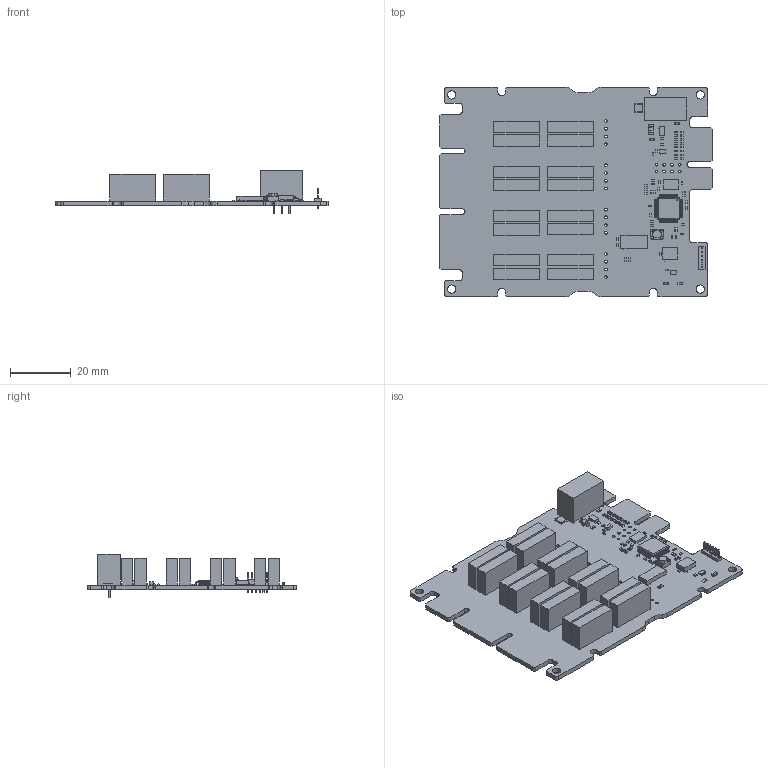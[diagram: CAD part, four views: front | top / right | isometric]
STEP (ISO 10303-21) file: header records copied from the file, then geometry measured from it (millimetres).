
FILE_DESCRIPTION(('Open CASCADE Model'),'2;1');
FILE_NAME('Open CASCADE Shape Model','2026-08-19T14:33:07',('Author'),( 'Open CASCADE'),'Open CASCADE STEP processor 7.5','Open CASCADE 7.5' ,'Unknown');
FILE_SCHEMA(('AUTOMOTIVE_DESIGN { 1 0 10303 214 1 1 1 1 }'));
Length unit declared in the file: millimetre
Products named in the file (213): Open CASCADE STEP translator 7.5 3148; Open CASCADE STEP translator 7.5 3149; Open CASCADE STEP translator 7.5 3150; Open CASCADE STEP translator 7.5 3151; Open CASCADE STEP translator 7.5 3152; Open CASCADE STEP translator 7.5 3153; Open CASCADE STEP translator 7.5 3154; Open CASCADE STEP translator 7.5 3155; Open CASCADE STEP translator 7.5 3156; Open CASCADE STEP translator 7.5 3157; Open CASCADE STEP translator 7.5 3158; Open CASCADE STEP translator 7.5 3159; Open CASCADE STEP translator 7.5 3160; Open CASCADE STEP translator 7.5 3161; Open CASCADE STEP translator 7.5 3162; Open CASCADE STEP translator 7.5 3163; Open CASCADE STEP translator 7.5 3164; Open CASCADE STEP translator 7.5 3165; Open CASCADE STEP translator 7.5 3166; Open CASCADE STEP translator 7.5 3167; Open CASCADE STEP translator 7.5 3168; Open CASCADE STEP translator 7.5 3169; Open CASCADE STEP translator 7.5 3170; Open CASCADE STEP translator 7.5 3171; Open CASCADE STEP translator 7.5 3172; Open CASCADE STEP translator 7.5 3173; Open CASCADE STEP translator 7.5 3174; Open CASCADE STEP translator 7.5 3175; Open CASCADE STEP translator 7.5 3176; Open CASCADE STEP translator 7.5 3177; Open CASCADE STEP translator 7.5 3178; Open CASCADE STEP translator 7.5 3179; Open CASCADE STEP translator 7.5 3180; Open CASCADE STEP translator 7.5 3181; Open CASCADE STEP translator 7.5 3182; Open CASCADE STEP translator 7.5 3183; Open CASCADE STEP translator 7.5 3184; Open CASCADE STEP translator 7.5 3185; Open CASCADE STEP translator 7.5 3186; Open CASCADE STEP translator 7.5 3187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
Bounding box: 90 x 69 x 14.2 mm (x, y, z)
Volume: 18359.5 mm3; surface area: 21472.4 mm2
Topology: 280 solids, 280 shells, 2844 faces, 6677 edges, 4406 vertices
Faces by surface type: plane 2342, cylinder 462, sphere 24, torus 8, bspline 4, cone 4
Full cylindrical faces by diameter (mm): 0.08 x1, 0.289 x1, 0.3 x6, 0.5 x3, 0.6 x6, 0.9 x120, 0.94 x3, 1.4 x1, 1.6 x2, 2.7 x4
Entity records: 89821 total; most frequent: CARTESIAN_POINT 14011, ORIENTED_EDGE 13354, DIRECTION 13276, EDGE_CURVE 6677, LINE 5730, VECTOR 5730, VERTEX_POINT 4406, AXIS2_PLACEMENT_3D 3773
